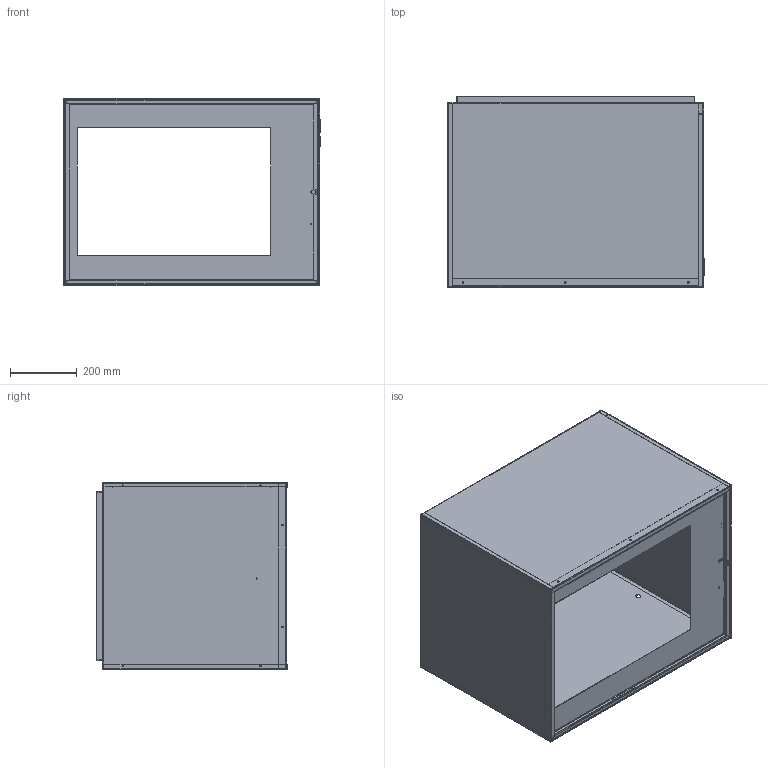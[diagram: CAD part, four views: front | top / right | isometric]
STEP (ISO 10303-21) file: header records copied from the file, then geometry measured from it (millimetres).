
FILE_DESCRIPTION (( 'STEP AP214' ), '1' );
FILE_NAME ('GTA4860.STEP', '2016-07-14T12:52:59', ( 'BMC' ), ( 'Bard Manufacturing Co., Inc.' ), 'SwSTEP 2.0', 'SolidWorks 2016', '' );
FILE_SCHEMA (( 'AUTOMOTIVE_DESIGN' ));
Length unit declared in the file: inch
Products named in the file (8): 100-592; 100-593; 108-243; 114-183; 152-476; 126-388; GTA4860; 114-199
Assembly tree (7 placements, depth 2):
  GTA4860
    126-388
    152-476
    114-183
    108-243
    100-593
    100-592
    114-199
Bounding box: 765.45 x 568.56 x 560.46 mm (x, y, z)
Surface area: 3959726.1 mm2 (no closed solid volume)
Topology: 0 solids, 7 shells, 487 faces, 1198 edges, 729 vertices
Faces by surface type: plane 204, cylinder 187, bspline 96
Entity records: 24165 total; most frequent: CARTESIAN_POINT 6142, ORIENTED_EDGE 2396, DIRECTION 2353, EDGE_CURVE 1198, AXIS2_PLACEMENT_3D 850, VERTEX_POINT 729, LINE 653, VECTOR 653
